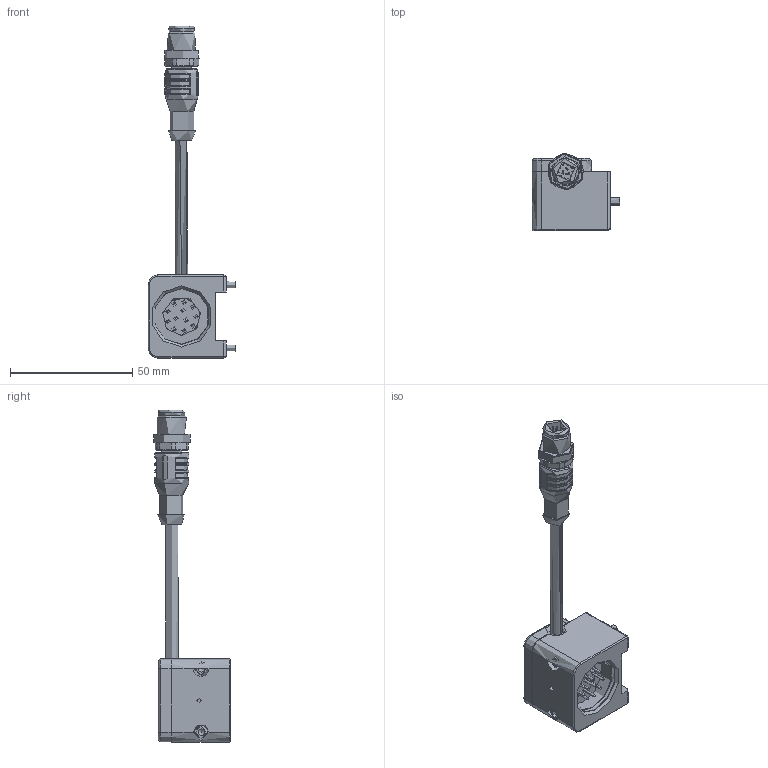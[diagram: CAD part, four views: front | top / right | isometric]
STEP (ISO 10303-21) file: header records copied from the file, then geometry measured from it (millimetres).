
FILE_DESCRIPTION(/* description */ (''),/* implementation_level */ '2;1');
FILE_NAME(/* name */ 'G-SEK100-O-1E12-300-M12_.stp',/* time_stamp */ '2025-11-25T10:44:51+01:00',/* author */ ('ysplieth'),/* organization */ (''),/* preprocessor_version */ 'ST-DEVELOPER v20.1',/* originating_system */ 'Autodesk Inventor 2026',/* authorisation */ '');
FILE_SCHEMA (('AUTOMOTIVE_DESIGN { 1 0 10303 214 3 1 1 }'));
Length unit declared in the file: millimetre
Products named in the file (1): G-SEK100-O-1E12-300-M12
Bounding box: 36 x 31.46 x 135.9 mm (x, y, z)
Volume: 28976.8 mm3; surface area: 16793.5 mm2
Topology: 2 solids, 10 shells, 781 faces, 2016 edges, 1287 vertices
Faces by surface type: plane 298, cylinder 195, bspline 158, cone 57, torus 49, sphere 24
Full cylindrical faces by diameter (mm): 0.6 x12, 1 x12, 1.6 x12, 2 x16, 2.013 x4, 2.5 x4, 2.9 x4, 3 x2, 3.4 x2, 4.5 x4, 5.2 x1, 5.5 x4, 6.5 x2, 8.3 x1, 8.7 x1, 10.2 x1, 10.5 x1, 10.8 x1, 12 x1, 14 x1, 15 x1, 15.9 x1, 17 x1, 17.1 x1, 18 x1, 23 x2, 25.5 x2
Entity records: 31655 total; most frequent: CARTESIAN_POINT 12584, ORIENTED_EDGE 3956, DIRECTION 3500, EDGE_CURVE 1978, AXIS2_PLACEMENT_3D 1294, VERTEX_POINT 1287, LINE 912, VECTOR 912
